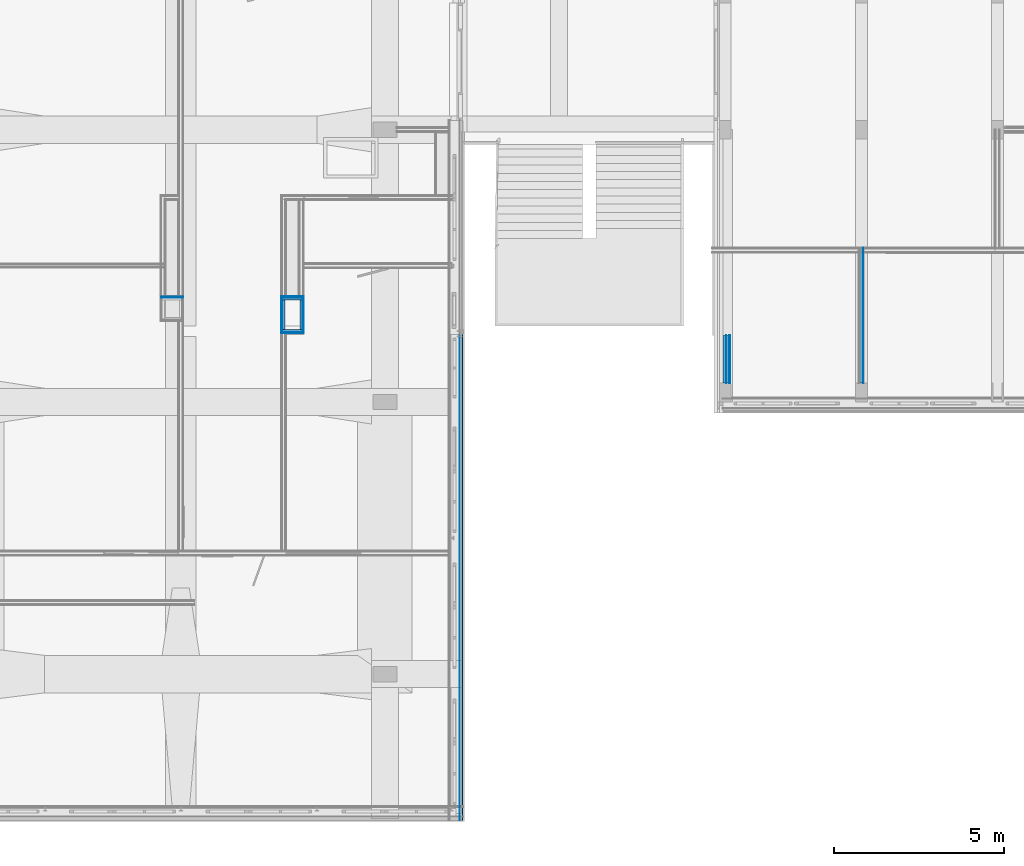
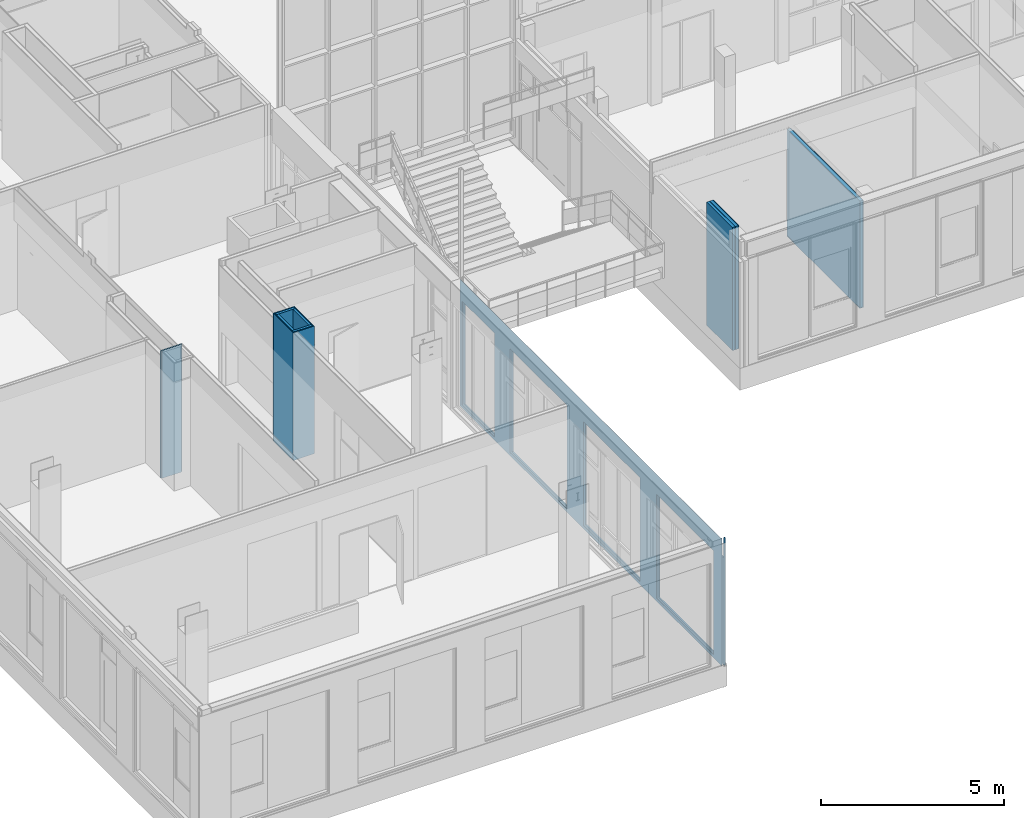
# One storey, part 43 of 94: 28 building element parts, 7 openings, 8 elements without a shape of their own.
"""IFC2X3 building model written with IfcOpenShell, lengths in millimetres."""

from ifc_helpers import new_model, entity, si_unit, converted_unit, derived_unit, money_unit, direction, frame, origin_with_axes, place, context, subcontext, project, spatial, faceted_brep, material, type_object, element, aggregate, save


model = new_model("IFC2X3")

# Units and contexts
model_context = context("Model", 3, precision=0.01, world=origin_with_axes(), true_north=direction((0.0, 1.0)))
body_context = subcontext(model_context, "Body", "Model", "MODEL_VIEW")
ifc_project = project(units=[si_unit("LENGTHUNIT", "METRE", prefix="MILLI"), si_unit("AREAUNIT", "SQUARE_METRE"), si_unit("VOLUMEUNIT", "CUBIC_METRE"), converted_unit("PLANEANGLEUNIT", "DEGREE", entity("IfcPlaneAngleMeasure", 0.0174532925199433), si_unit("PLANEANGLEUNIT", "RADIAN"), dimensions=[0, 0, 0, 0, 0, 0, 0]), money_unit("EUR"), converted_unit("TIMEUNIT", "Year", entity("IfcTimeMeasure", 31557600.0), si_unit("TIMEUNIT", "SECOND"), dimensions=[0, 0, 1, 0, 0, 0, 0]), si_unit("MASSUNIT", "GRAM", prefix="KILO"), si_unit("THERMODYNAMICTEMPERATUREUNIT", "DEGREE_CELSIUS"), si_unit("LUMINOUSINTENSITYUNIT", "LUMEN"), si_unit("ENERGYUNIT", "JOULE", prefix="MEGA"), derived_unit("THERMALCONDUCTANCEUNIT", [(si_unit("POWERUNIT", "WATT"), 1), (si_unit("LENGTHUNIT", "METRE"), -1), (si_unit("THERMODYNAMICTEMPERATUREUNIT", "KELVIN"), -1)]), derived_unit("SPECIFICHEATCAPACITYUNIT", [(si_unit("ENERGYUNIT", "JOULE"), 1), (si_unit("MASSUNIT", "GRAM", prefix="KILO"), -1), (si_unit("THERMODYNAMICTEMPERATUREUNIT", "KELVIN"), -1)]), derived_unit("MASSDENSITYUNIT", [(si_unit("MASSUNIT", "GRAM", prefix="KILO"), 1), (si_unit("VOLUMEUNIT", "CUBIC_METRE"), -1)])], contexts=[model_context])

# Site, building, storey
site_placement = place(None, origin_with_axes())
site = spatial("IfcSite", under=ifc_project, at=site_placement, Name="<site naam>", CompositionType="ELEMENT")
building_placement = place(site_placement, origin_with_axes())
building = spatial("IfcBuilding", under=site, at=building_placement, Name="<Naam gebouw>", CompositionType="ELEMENT")
storey_placement = place(building_placement, frame((0.0, 0.0, 4250.0), z_axis=(0.0, 0.0, 1.0), x_axis=(1.0, 0.0, 0.0)))
storey = spatial("IfcBuildingStorey", under=building, at=storey_placement, Name="01 1e verdieping", CompositionType="ELEMENT", Elevation=4250.0)

# Wall, building element parts
wall_type_1 = type_object("IfcWallType", Name="MS-01 GF 150 ECO DGS/2.100.2.A 150", PredefinedType="NOTDEFINED")
wall_1_placement = place(storey_placement, frame((16000.00000000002, 4524.999967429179, 0.0), z_axis=(0.0, 0.0, 1.0), x_axis=(0.0, -1.0, 0.0)))
wall_1 = element("IfcWall", 1, at=wall_1_placement, inside=storey, type_object=wall_type_1, Name="22_Binnenwand_MS-01")
ifc_material_1 = material(Name="gipsplaat")
building_element_part_1_placement = place(wall_1_placement, origin_with_axes())
building_element_part_1 = element("IfcBuildingElementPart", 2, at=building_element_part_1_placement, material=ifc_material_1, Name="gipsplaat", context=body_context, shape_type="Brep", body=[
    faceted_brep([(0.0, 50.00000000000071, 3569.999999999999), (0.0, 62.5, 3569.999999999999), (0.0, 62.5, 22.99999999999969), (0.0, 50.00000000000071, 22.99999999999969), (3974.999967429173, 62.5, 3569.999999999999), (3974.999967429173, 50.00000000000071, 3569.999999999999), (3975.000013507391, 62.5, 22.99999999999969), (3975.000013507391, 50.00000000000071, 22.99999999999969)], [[[0, 1, 2, 3]], [[4, 1, 0, 5]], [[1, 4, 6, 2]], [[6, 7, 3, 2]], [[5, 0, 3, 7]], [[4, 5, 7, 6]]]),
    faceted_brep([(0.0, 50.00000000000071, 19.99999999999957), (0.0, 62.5, 19.99999999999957), (0.0, 62.5, 0.0), (0.0, 50.00000000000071, 0.0), (3975.00001350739, 62.5, 19.99999999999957), (3975.00001350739, 50.00000000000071, 19.99999999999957), (3974.999967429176, 62.5, 0.0), (3974.999967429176, 50.00000000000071, 0.0)], [[[0, 1, 2, 3]], [[4, 1, 0, 5]], [[1, 4, 6, 2]], [[2, 6, 7, 3]], [[5, 0, 3, 7]], [[4, 5, 7, 6]]]),
])
ifc_material_2 = material(Name="isolatie_steenwol LSW")
building_element_part_2_placement = place(wall_1_placement, origin_with_axes())
building_element_part_2 = element("IfcBuildingElementPart", 3, at=building_element_part_2_placement, material=ifc_material_2, Name="isolatie_steenwol LSW", context=body_context, shape_type="Brep", body=[
    faceted_brep([(0.0, -50.00000000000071, 3569.999999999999), (0.0, 50.00000000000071, 3569.999999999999), (0.0, 50.00000000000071, 22.99999999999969), (0.0, -50.00000000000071, 22.99999999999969), (3974.999967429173, 50.00000000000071, 3569.999999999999), (3974.999967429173, -50.00000000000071, 3569.999999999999), (3975.000013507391, 50.00000000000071, 22.99999999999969), (3975.000013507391, -50.00000000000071, 22.99999999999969)], [[[0, 1, 2, 3]], [[4, 1, 0, 5]], [[1, 4, 6, 2]], [[6, 7, 3, 2]], [[5, 0, 3, 7]], [[4, 5, 7, 6]]]),
    faceted_brep([(0.0, -50.00000000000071, 19.99999999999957), (0.0, 50.00000000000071, 19.99999999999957), (0.0, 50.00000000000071, 0.0), (0.0, -50.00000000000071, 0.0), (3975.00001350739, 50.00000000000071, 19.99999999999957), (3975.00001350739, -50.00000000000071, 19.99999999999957), (3974.999967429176, 50.00000000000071, 0.0), (3974.999967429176, -50.00000000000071, 0.0)], [[[0, 1, 2, 3]], [[4, 1, 0, 5]], [[1, 4, 6, 2]], [[2, 6, 7, 3]], [[5, 0, 3, 7]], [[4, 5, 7, 6]]]),
])
aggregate(wall_1, [building_element_part_1, building_element_part_2])

# Wall, openings, building element parts
wall_type_2 = type_object("IfcWallType", Name="HSB_285 gevelbeplating 420", PredefinedType="NOTDEFINED")
wall_2_placement = place(storey_placement, frame((4298.044439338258, -12297.99999999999, 0.0), z_axis=(0.0, 0.0, 1.0), x_axis=(0.0, 1.0, 0.0)))
wall_2 = element("IfcWall", 4, at=wall_2_placement, inside=storey, type_object=wall_type_2, Name="21_Binnenwand_HSB_285")
opening_1_placement = place(wall_2_placement, frame((1379.500065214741, 0.0, 102.9999634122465), z_axis=(0.0, 0.0, 1.0), x_axis=(1.0, 0.0, 0.0)))
element("IfcOpeningElement", 5, at=opening_1_placement, cuts=wall_2, Name="21_BU-A-12a_305", context=body_context, shape_type="Brep", body=[
    faceted_brep([(918.5000652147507, 213.0000000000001, 0.0), (918.5000652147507, 213.0000000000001, 3454.0), (918.5000652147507, -1.000000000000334, 3454.0), (918.5000652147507, -1.000000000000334, 0.0), (918.5000652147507, 420.9999999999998, 0.0), (918.5000652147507, 420.9999999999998, 3454.0), (-918.5000652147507, 213.0000000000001, 3454.0), (-918.5000652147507, -1.000000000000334, 3454.0), (-918.5000652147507, -1.000000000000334, 0.0), (-918.5000652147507, 213.0000000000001, 0.0), (-918.5000652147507, 420.9999999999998, 0.0), (-918.5000652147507, 420.9999999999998, 3454.0)], [[[0, 1, 2, 3]], [[1, 0, 4, 5]], [[1, 6, 7, 2]], [[7, 8, 3, 2]], [[9, 0, 3, 8]], [[0, 9, 10, 4]], [[5, 4, 10, 11]], [[6, 1, 5, 11]], [[6, 9, 8, 7]], [[9, 6, 11, 10]]]),
])
opening_2_placement = place(wall_2_placement, frame((2931.50007085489, 0.0, 102.9999634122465), z_axis=(0.0, 0.0, 1.0), x_axis=(1.0, 0.0, 0.0)))
element("IfcOpeningElement", 6, at=opening_2_placement, cuts=wall_2, Name="21_BU-A-12b_305", context=body_context, shape_type="Brep", body=[
    faceted_brep([(633.4999291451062, 213.0000000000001, 0.0), (633.4999291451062, 213.0000000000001, 3454.0), (633.4999291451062, -1.000000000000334, 3454.0), (633.4999291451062, -1.000000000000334, 0.0), (633.4999291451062, 420.9999999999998, 0.0), (633.4999291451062, 420.9999999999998, 3454.0), (-633.4999291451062, 213.0000000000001, 3454.0), (-633.4999291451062, -1.000000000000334, 3454.0), (-633.4999291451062, -1.000000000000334, 0.0), (-633.4999291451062, 213.0000000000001, 0.0), (-633.4999291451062, 420.9999999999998, 0.0), (-633.4999291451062, 420.9999999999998, 3454.0)], [[[0, 1, 2, 3]], [[1, 0, 4, 5]], [[1, 6, 7, 2]], [[7, 8, 3, 2]], [[9, 0, 3, 8]], [[0, 9, 10, 4]], [[5, 4, 10, 11]], [[6, 1, 5, 11]], [[6, 9, 8, 7]], [[9, 6, 11, 10]]]),
])
opening_3_placement = place(wall_2_placement, frame((5379.47903416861, 0.0, 102.9999634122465), z_axis=(0.0, 0.0, 1.0), x_axis=(1.0, 0.0, 0.0)))
element("IfcOpeningElement", 7, at=opening_3_placement, cuts=wall_2, Name="21_BU-A-12a_305", context=body_context, shape_type="Brep", body=[
    faceted_brep([(918.5000652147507, 213.0000000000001, 0.0), (918.5000652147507, 213.0000000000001, 3454.0), (918.5000652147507, -1.000000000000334, 3454.0), (918.5000652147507, -1.000000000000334, 0.0), (918.5000652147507, 420.9999999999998, 0.0), (918.5000652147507, 420.9999999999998, 3454.0), (-918.5000652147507, 213.0000000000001, 3454.0), (-918.5000652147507, -1.000000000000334, 3454.0), (-918.5000652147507, -1.000000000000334, 0.0), (-918.5000652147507, 213.0000000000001, 0.0), (-918.5000652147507, 420.9999999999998, 0.0), (-918.5000652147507, 420.9999999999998, 3454.0)], [[[0, 1, 2, 3]], [[1, 0, 4, 5]], [[1, 6, 7, 2]], [[7, 8, 3, 2]], [[9, 0, 3, 8]], [[0, 9, 10, 4]], [[5, 4, 10, 11]], [[6, 1, 5, 11]], [[6, 9, 8, 7]], [[9, 6, 11, 10]]]),
])
opening_4_placement = place(wall_2_placement, frame((6931.500070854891, 0.0, 102.9999634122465), z_axis=(0.0, 0.0, 1.0), x_axis=(1.0, 0.0, 0.0)))
element("IfcOpeningElement", 8, at=opening_4_placement, cuts=wall_2, Name="21_BU-A-12b_305", context=body_context, shape_type="Brep", body=[
    faceted_brep([(633.4999291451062, 213.0000000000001, 0.0), (633.4999291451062, 213.0000000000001, 3454.0), (633.4999291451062, -1.000000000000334, 3454.0), (633.4999291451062, -1.000000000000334, 0.0), (633.4999291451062, 420.9999999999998, 0.0), (633.4999291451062, 420.9999999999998, 3454.0), (-633.4999291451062, 213.0000000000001, 3454.0), (-633.4999291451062, -1.000000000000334, 3454.0), (-633.4999291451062, -1.000000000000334, 0.0), (-633.4999291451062, 213.0000000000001, 0.0), (-633.4999291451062, 420.9999999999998, 0.0), (-633.4999291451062, 420.9999999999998, 3454.0)], [[[0, 1, 2, 3]], [[1, 0, 4, 5]], [[1, 6, 7, 2]], [[7, 8, 3, 2]], [[9, 0, 3, 8]], [[0, 9, 10, 4]], [[5, 4, 10, 11]], [[6, 1, 5, 11]], [[6, 9, 8, 7]], [[9, 6, 11, 10]]]),
])
opening_5_placement = place(wall_2_placement, frame((10931.50007085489, 0.0, 102.9999634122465), z_axis=(0.0, 0.0, 1.0), x_axis=(1.0, 0.0, 0.0)))
element("IfcOpeningElement", 9, at=opening_5_placement, cuts=wall_2, Name="21_BU-A-12b_305", context=body_context, shape_type="Brep", body=[
    faceted_brep([(633.4999291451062, 212.9999999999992, 0.0), (633.4999291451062, 212.9999999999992, 3454.0), (633.4999291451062, -1.000000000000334, 3454.0), (633.4999291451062, -1.000000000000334, 0.0), (633.4999291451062, 420.9999999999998, 0.0), (633.4999291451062, 420.9999999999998, 3454.0), (-633.4999291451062, 212.9999999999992, 3454.0), (-633.4999291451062, -1.000000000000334, 3454.0), (-633.4999291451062, -1.000000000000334, 0.0), (-633.4999291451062, 212.9999999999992, 0.0), (-633.4999291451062, 420.9999999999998, 0.0), (-633.4999291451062, 420.9999999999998, 3454.0)], [[[0, 1, 2, 3]], [[1, 0, 4, 5]], [[1, 6, 7, 2]], [[7, 8, 3, 2]], [[9, 0, 3, 8]], [[0, 9, 10, 4]], [[5, 4, 10, 11]], [[6, 1, 5, 11]], [[6, 9, 8, 7]], [[9, 6, 11, 10]]]),
])
opening_6_placement = place(wall_2_placement, frame((13295.52252618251, 0.0, 102.9999634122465), z_axis=(0.0, 0.0, 1.0), x_axis=(1.0, 0.0, 0.0)))
element("IfcOpeningElement", 10, at=opening_6_placement, cuts=wall_2, Name="21_BU-A-14a_305", context=body_context, shape_type="Brep", body=[
    faceted_brep([(879.4969387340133, 212.9999999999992, 0.0), (879.4969387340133, 212.9999999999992, 3454.0), (879.4969387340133, -1.000000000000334, 3454.0), (879.4969387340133, -1.000000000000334, 0.0), (879.4969387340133, 420.9999999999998, 0.0), (879.4969387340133, 420.9999999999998, 3454.0), (-879.4969387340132, 212.9999999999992, 3454.0), (-879.4969387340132, -1.000000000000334, 3454.0), (-879.4969387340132, -1.000000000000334, 0.0), (-879.4969387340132, 212.9999999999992, 0.0), (-879.4969387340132, 420.9999999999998, 0.0), (-879.4969387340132, 420.9999999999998, 3454.0)], [[[0, 1, 2, 3]], [[1, 0, 4, 5]], [[1, 6, 7, 2]], [[7, 8, 3, 2]], [[9, 0, 3, 8]], [[0, 9, 10, 4]], [[5, 4, 10, 11]], [[6, 1, 5, 11]], [[6, 9, 8, 7]], [[9, 6, 11, 10]]]),
])
opening_7_placement = place(wall_2_placement, frame((9379.500065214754, 0.0, 102.9999634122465), z_axis=(0.0, 0.0, 1.0), x_axis=(1.0, 0.0, 0.0)))
element("IfcOpeningElement", 11, at=opening_7_placement, cuts=wall_2, Name="21_BU-A-12a_305", context=body_context, shape_type="Brep", body=[
    faceted_brep([(918.5000652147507, 212.9999999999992, 0.0), (918.5000652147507, 212.9999999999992, 3454.0), (918.5000652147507, -1.000000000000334, 3454.0), (918.5000652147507, -1.000000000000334, 0.0), (918.5000652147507, 420.9999999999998, 0.0), (918.5000652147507, 420.9999999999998, 3454.0), (-918.5000652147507, 212.9999999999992, 3454.0), (-918.5000652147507, -1.000000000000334, 3454.0), (-918.5000652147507, -1.000000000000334, 0.0), (-918.5000652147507, 212.9999999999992, 0.0), (-918.5000652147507, 420.9999999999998, 0.0), (-918.5000652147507, 420.9999999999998, 3454.0)], [[[0, 1, 2, 3]], [[1, 0, 4, 5]], [[1, 6, 7, 2]], [[7, 8, 3, 2]], [[9, 0, 3, 8]], [[0, 9, 10, 4]], [[5, 4, 10, 11]], [[6, 1, 5, 11]], [[6, 9, 8, 7]], [[9, 6, 11, 10]]]),
])
ifc_material_3 = material(Name="brandwerende_bekleding")
building_element_part_3_placement = place(wall_2_placement, origin_with_axes())
building_element_part_3 = element("IfcBuildingElementPart", 12, at=building_element_part_3_placement, material=ifc_material_3, Name="brandwerende_bekleding", context=body_context, shape_type="Brep", body=[
    faceted_brep([(14276.35758320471, 107.0000000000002, 4220.000027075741), (14276.35758320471, 102.5, 4220.000027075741), (14276.35758320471, 102.5, 0.0), (14276.35758320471, 107.0000000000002, 0.0), (23.00991190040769, 102.5, 4220.000027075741), (23.00991190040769, 107.0000000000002, 4220.000027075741), (23.00991190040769, 102.5, 4250.0), (0.0, 102.5, 4250.0), (0.0, 102.5, 0.0), (0.0, 107.0000000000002, 0.0), (0.0, 107.0000000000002, 4250.0), (23.00991190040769, 107.0000000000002, 4250.0)], [[[0, 1, 2, 3]], [[4, 1, 0, 5]], [[4, 6, 7, 8, 2, 1]], [[9, 3, 2, 8]], [[5, 0, 3, 9, 10, 11]], [[11, 6, 4, 5]], [[6, 11, 10, 7]], [[10, 9, 8, 7]]]),
])
ifc_material_4 = material(Name="folie_dampopen")
building_element_part_4_placement = place(wall_2_placement, origin_with_axes())
building_element_part_4 = element("IfcBuildingElementPart", 13, at=building_element_part_4_placement, material=ifc_material_4, Name="folie_dampopen", context=body_context, shape_type="Brep", body=[
    faceted_brep([(14276.35758320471, 102.5, 4220.000027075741), (14276.35758320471, 102.0000000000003, 4220.000027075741), (14276.35758320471, 102.0000000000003, 0.0), (14276.35758320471, 102.5, 0.0), (23.00991190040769, 102.0000000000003, 4220.000027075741), (23.00991190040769, 102.5, 4220.000027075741), (23.00991190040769, 102.0000000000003, 4250.0), (0.0, 102.0000000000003, 4250.0), (0.0, 102.0000000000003, 0.0), (0.0, 102.5, 0.0), (0.0, 102.5, 4250.0), (23.00991190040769, 102.5, 4250.0)], [[[0, 1, 2, 3]], [[4, 1, 0, 5]], [[4, 6, 7, 8, 2, 1]], [[9, 3, 2, 8]], [[5, 0, 3, 9, 10, 11]], [[11, 6, 4, 5]], [[6, 11, 10, 7]], [[10, 9, 8, 7]]]),
])
ifc_material_5 = material(Name="metaal - Aluminium gevelplaat")
building_element_part_5_placement = place(wall_2_placement, origin_with_axes())
building_element_part_5 = element("IfcBuildingElementPart", 14, at=building_element_part_5_placement, material=ifc_material_5, Name="metaal - Aluminium gevelplaat", context=body_context, shape_type="Brep", body=[
    faceted_brep([(14276.35758320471, 40.00000000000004, 3560.000103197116), (14276.35758320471, 0.0, 3560.000103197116), (14276.35758320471, 0.0, 0.0), (14276.35758320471, 40.00000000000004, 0.0), (23.00991190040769, 40.00000000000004, 3560.000103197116), (23.00991190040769, 0.0, 3560.000103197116), (23.00991190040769, 0.0, 4250.0), (0.0, 0.0, 4250.0), (0.0, 0.0, 0.0), (0.0, 40.00000000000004, 0.0), (0.0, 40.00000000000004, 4250.0), (23.00991190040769, 40.00000000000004, 4250.0)], [[[0, 1, 2, 3]], [[1, 0, 4, 5]], [[5, 6, 7, 8, 2, 1]], [[9, 3, 2, 8]], [[4, 0, 3, 9, 10, 11]], [[6, 5, 4, 11]], [[6, 11, 10, 7]], [[10, 9, 8, 7]]]),
])
aggregate(wall_2, [building_element_part_3, building_element_part_4, building_element_part_5])

# Wall, building element parts
wall_type_3 = type_object("IfcWallType", Name="therm. voorzetwand 215mm 215", PredefinedType="NOTDEFINED")
wall_3_placement = place(storey_placement, frame((11935.00003775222, 550.0000663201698, 0.0), z_axis=(0.0, 0.0, 1.0), x_axis=(0.0, 1.0, 0.0)))
wall_3 = element("IfcWall", 15, at=wall_3_placement, inside=storey, type_object=wall_type_3, Name="22_Binnenwand_therm.")
ifc_material_6 = material(Name="isolatie_steenwol")
building_element_part_6_placement = place(wall_3_placement, origin_with_axes())
building_element_part_6 = element("IfcBuildingElementPart", 16, at=building_element_part_6_placement, material=ifc_material_6, Name="isolatie_steenwol", context=body_context, shape_type="Brep", body=[
    faceted_brep([(1404.999911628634, 0.0, 4100.0), (1404.999911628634, -90.00000000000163, 4100.0), (1404.999911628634, -90.00000000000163, 0.0), (1404.999911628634, 0.0, 0.0), (0.0, -90.00000000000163, 4100.0), (0.0, 0.0, 4100.0), (0.0, -90.00000000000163, 0.0), (0.0, 0.0, 0.0)], [[[0, 1, 2, 3]], [[4, 1, 0, 5]], [[1, 4, 6, 2]], [[7, 3, 2, 6]], [[5, 0, 3, 7]], [[4, 5, 7, 6]]]),
])
ifc_material_7 = material(Name="metal_stud")
building_element_part_7_placement = place(wall_3_placement, origin_with_axes())
building_element_part_7 = element("IfcBuildingElementPart", 17, at=building_element_part_7_placement, material=ifc_material_7, Name="metal_stud", context=body_context, shape_type="Brep", body=[
    faceted_brep([(1404.999911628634, -90.00000000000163, 4100.0), (1404.999911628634, -99.99999999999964, 4100.0), (1404.999911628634, -99.99999999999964, 0.0), (1404.999911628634, -90.00000000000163, 0.0), (0.0, -99.99999999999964, 4100.0), (0.0, -90.00000000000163, 4100.0), (0.0, -99.99999999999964, 0.0), (0.0, -90.00000000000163, 0.0)], [[[0, 1, 2, 3]], [[4, 1, 0, 5]], [[1, 4, 6, 2]], [[7, 3, 2, 6]], [[5, 0, 3, 7]], [[4, 5, 7, 6]]]),
])
building_element_part_8_placement = place(wall_3_placement, origin_with_axes())
building_element_part_8 = element("IfcBuildingElementPart", 18, at=building_element_part_8_placement, material=ifc_material_6, Name="isolatie_steenwol", context=body_context, shape_type="Brep", body=[
    faceted_brep([(1404.999911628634, -99.99999999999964, 4100.0), (1404.999911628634, -189.9999999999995, 4100.0), (1404.999911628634, -189.9999999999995, 0.0), (1404.999911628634, -99.99999999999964, 0.0), (0.0, -189.9999999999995, 4100.0), (0.0, -99.99999999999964, 4100.0), (0.0, -189.9999999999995, 0.0), (0.0, -99.99999999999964, 0.0)], [[[0, 1, 2, 3]], [[4, 1, 0, 5]], [[1, 4, 6, 2]], [[7, 3, 2, 6]], [[5, 0, 3, 7]], [[4, 5, 7, 6]]]),
])
building_element_part_9_placement = place(wall_3_placement, origin_with_axes())
building_element_part_9 = element("IfcBuildingElementPart", 19, at=building_element_part_9_placement, material=ifc_material_1, Name="gipsplaat", context=body_context, shape_type="Brep", body=[
    faceted_brep([(1404.999911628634, -189.9999999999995, 4100.0), (1404.999911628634, -202.4999999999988, 4100.0), (1404.999911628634, -202.4999999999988, 0.0), (1404.999911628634, -189.9999999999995, 0.0), (0.0, -202.4999999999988, 4100.0), (0.0, -189.9999999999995, 4100.0), (0.0, -202.4999999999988, 0.0), (0.0, -189.9999999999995, 0.0)], [[[0, 1, 2, 3]], [[4, 1, 0, 5]], [[1, 4, 6, 2]], [[7, 3, 2, 6]], [[5, 0, 3, 7]], [[4, 5, 7, 6]]]),
])
building_element_part_10_placement = place(wall_3_placement, origin_with_axes())
building_element_part_10 = element("IfcBuildingElementPart", 20, at=building_element_part_10_placement, material=ifc_material_1, Name="gipsplaat", context=body_context, shape_type="Brep", body=[
    faceted_brep([(1404.999911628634, -202.4999999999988, 4100.0), (1404.999911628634, -215.0000000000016, 4100.0), (1404.999911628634, -215.0000000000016, 3740.0), (1404.999911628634, -202.4999999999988, 3740.0), (0.0, -215.0000000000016, 4100.0), (0.0, -202.4999999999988, 4100.0), (0.0, -215.0000000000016, 3740.0), (0.0, -202.4999999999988, 3740.0)], [[[0, 1, 2, 3]], [[4, 1, 0, 5]], [[1, 4, 6, 2]], [[7, 3, 2, 6]], [[5, 0, 3, 7]], [[4, 5, 7, 6]]]),
    faceted_brep([(1404.999911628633, -202.5000000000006, 3700.0), (1404.999911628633, -214.9999999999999, 3700.0), (1404.999911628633, -214.9999999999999, 0.0), (1404.999911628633, -202.5000000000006, 0.0), (0.0, -214.9999999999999, 3700.0), (0.0, -202.5000000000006, 3700.0), (0.0, -214.9999999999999, 0.0), (0.0, -202.5000000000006, 0.0)], [[[0, 1, 2, 3]], [[4, 1, 0, 5]], [[1, 4, 6, 2]], [[7, 3, 2, 6]], [[5, 0, 3, 7]], [[4, 5, 7, 6]]]),
])
aggregate(wall_3, [building_element_part_6, building_element_part_7, building_element_part_8, building_element_part_9, building_element_part_10])

wall_type_4 = type_object("IfcWallType", Name="MS-04 GF 138 V/100.3.A 113", PredefinedType="NOTDEFINED")
wall_4_placement = place(storey_placement, frame((-379.999999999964, 3105.00000000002, 0.0), z_axis=(0.0, 0.0, 1.0), x_axis=(-1.0, 0.0, 0.0)))
wall_4 = element("IfcWall", 21, at=wall_4_placement, inside=storey, type_object=wall_type_4, Name="22_Binnenwand_MS-04")
building_element_part_11_placement = place(wall_4_placement, origin_with_axes())
building_element_part_11 = element("IfcBuildingElementPart", 22, at=building_element_part_11_placement, material=ifc_material_2, Name="isolatie_steenwol LSW", context=body_context, shape_type="Brep", body=[
    faceted_brep([(632.4999999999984, 37.50000000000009, 0.0), (632.4999999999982, 37.50000000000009, 4250.0), (37.50000000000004, 37.50000000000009, 4250.0), (37.50000000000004, 37.50000000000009, 0.0), (632.4999999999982, 112.5000000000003, 4250.0), (632.4999999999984, 112.4999999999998, 0.0), (37.50000000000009, 112.5000000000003, 4250.0), (37.50000000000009, 112.4999999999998, 0.0)], [[[0, 1, 2, 3]], [[4, 1, 0, 5]], [[1, 4, 6, 2]], [[3, 2, 6, 7]], [[5, 0, 3, 7]], [[4, 5, 7, 6]]]),
])
building_element_part_12_placement = place(wall_4_placement, origin_with_axes())
building_element_part_12 = element("IfcBuildingElementPart", 23, at=building_element_part_12_placement, material=ifc_material_1, Name="gipsplaat", context=body_context, shape_type="Brep", body=[
    faceted_brep([(644.9999999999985, 24.99999999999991, 0.0), (644.9999999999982, 25.00000000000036, 4250.0), (25.00000000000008, 25.00000000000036, 4250.0), (25.00000000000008, 24.99999999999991, 0.0), (644.9999999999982, 37.50000000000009, 4250.0), (644.9999999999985, 37.50000000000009, 0.0), (25.00000000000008, 37.50000000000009, 4250.0), (25.00000000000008, 37.50000000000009, 0.0)], [[[0, 1, 2, 3]], [[4, 1, 0, 5]], [[1, 4, 6, 2]], [[3, 2, 6, 7]], [[5, 0, 3, 7]], [[4, 5, 7, 6]]]),
])
building_element_part_13_placement = place(wall_4_placement, origin_with_axes())
building_element_part_13 = element("IfcBuildingElementPart", 24, at=building_element_part_13_placement, material=ifc_material_1, Name="gipsplaat", context=body_context, shape_type="Brep", body=[
    faceted_brep([(657.4999999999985, 12.49999999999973, 0.0), (657.4999999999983, 12.50000000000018, 4250.0), (12.50000000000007, 12.50000000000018, 4250.0), (12.50000000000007, 12.50000000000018, 0.0), (657.4999999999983, 25.00000000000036, 4250.0), (657.4999999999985, 24.99999999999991, 0.0), (12.50000000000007, 25.00000000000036, 4250.0), (12.50000000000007, 24.99999999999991, 0.0)], [[[0, 1, 2, 3]], [[4, 1, 0, 5]], [[1, 4, 6, 2]], [[3, 2, 6, 7]], [[5, 0, 3, 7]], [[4, 5, 7, 6]]]),
])
building_element_part_14_placement = place(wall_4_placement, origin_with_axes())
building_element_part_14 = element("IfcBuildingElementPart", 25, at=building_element_part_14_placement, material=ifc_material_1, Name="gipsplaat", context=body_context, shape_type="Brep", body=[
    faceted_brep([(669.9999999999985, 0.0, 0.0), (669.9999999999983, 0.0, 4250.0), (0.0, 0.0, 4250.0), (0.0, 0.0, 0.0), (669.9999999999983, 12.50000000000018, 4250.0), (669.9999999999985, 12.49999999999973, 0.0), (0.0, 12.50000000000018, 4250.0), (0.0, 12.50000000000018, 0.0)], [[[0, 1, 2, 3]], [[4, 1, 0, 5]], [[1, 4, 6, 2]], [[2, 6, 7, 3]], [[5, 0, 3, 7]], [[4, 5, 7, 6]]]),
])
aggregate(wall_4, [building_element_part_11, building_element_part_12, building_element_part_13, building_element_part_14])

wall_5_placement = place(storey_placement, frame((-3924.99979006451, 3104.999976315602, 0.0), z_axis=(0.0, 0.0, 1.0), x_axis=(-0.9999999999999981, -6.217457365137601e-08, 0.0)))
wall_5 = element("IfcWall", 26, at=wall_5_placement, inside=storey, type_object=wall_type_4, Name="22_Binnenwand_MS-04")
building_element_part_15_placement = place(wall_5_placement, origin_with_axes())
building_element_part_15 = element("IfcBuildingElementPart", 27, at=building_element_part_15_placement, material=ifc_material_1, Name="gipsplaat", context=body_context, shape_type="Brep", body=[
    faceted_brep([(25.00000233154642, 37.4999984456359, 4250.0), (25.00000155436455, 24.99999844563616, 4250.0), (644.9996333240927, 24.9999598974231, 4250.0), (644.9996341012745, 37.49995989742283, 4250.0), (25.00000155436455, 24.99999844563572, 0.0), (25.00000233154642, 37.4999984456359, 0.0), (644.9996333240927, 24.99995989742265, 0.0), (644.9996341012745, 37.49995989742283, 0.0)], [[[0, 1, 2, 3]], [[4, 1, 0, 5]], [[1, 4, 6, 2]], [[3, 2, 6, 7]], [[5, 0, 3, 7]], [[4, 5, 7, 6]]]),
])
building_element_part_16_placement = place(wall_5_placement, origin_with_axes())
building_element_part_16 = element("IfcBuildingElementPart", 28, at=building_element_part_16_placement, material=ifc_material_1, Name="gipsplaat", context=body_context, shape_type="Brep", body=[
    faceted_brep([(2.685423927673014e-05, 12.4999999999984, 4250.0), (2.607705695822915e-05, 0.0, 4250.0), (669.9996317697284, -4.165694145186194e-05, 4250.0), (669.9996325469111, 12.49995834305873, 4250.0), (2.607705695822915e-05, 0.0, 0.0), (2.685423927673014e-05, 12.4999999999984, 0.0), (669.9996317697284, -4.165694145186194e-05, 0.0), (669.9996325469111, 12.49995834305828, 0.0)], [[[0, 1, 2, 3]], [[4, 1, 0, 5]], [[1, 4, 6, 2]], [[2, 6, 7, 3]], [[5, 0, 3, 7]], [[4, 5, 7, 6]]]),
])
aggregate(wall_5, [building_element_part_15, building_element_part_16])

wall_6_placement = place(storey_placement, frame((-379.9999999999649, 2125.000000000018, 0.0), z_axis=(0.0, 0.0, 1.0), x_axis=(-1.0, 0.0, 0.0)))
wall_6 = element("IfcWall", 29, at=wall_6_placement, inside=storey, type_object=wall_type_4, Name="22_Binnenwand_MS-04")
building_element_part_17_placement = place(wall_6_placement, origin_with_axes())
building_element_part_17 = element("IfcBuildingElementPart", 30, at=building_element_part_17_placement, material=ifc_material_1, Name="gipsplaat", context=body_context, shape_type="Brep", body=[
    faceted_brep([(669.9999999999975, 100.0000000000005, 0.0), (669.9999999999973, 100.0000000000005, 4250.0), (0.0, 100.0000000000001, 4250.0), (0.0, 100.0000000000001, 0.0), (669.9999999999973, 112.5000000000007, 4250.0), (669.9999999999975, 112.5000000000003, 0.0), (0.0, 112.5000000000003, 4250.0), (0.0, 112.4999999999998, 0.0)], [[[0, 1, 2, 3]], [[4, 1, 0, 5]], [[1, 4, 6, 2]], [[2, 6, 7, 3]], [[5, 0, 3, 7]], [[4, 5, 7, 6]]]),
])
building_element_part_18_placement = place(wall_6_placement, origin_with_axes())
building_element_part_18 = element("IfcBuildingElementPart", 31, at=building_element_part_18_placement, material=ifc_material_1, Name="gipsplaat", context=body_context, shape_type="Brep", body=[
    faceted_brep([(644.9999999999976, 75.00000000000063, 0.0), (644.9999999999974, 75.00000000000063, 4250.0), (25.00000000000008, 75.00000000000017, 4250.0), (25.00000000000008, 75.00000000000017, 0.0), (644.9999999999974, 87.5000000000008, 4250.0), (644.9999999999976, 87.50000000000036, 0.0), (25.00000000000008, 87.50000000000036, 4250.0), (25.00000000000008, 87.49999999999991, 0.0)], [[[0, 1, 2, 3]], [[4, 1, 0, 5]], [[1, 4, 6, 2]], [[3, 2, 6, 7]], [[5, 0, 3, 7]], [[4, 5, 7, 6]]]),
])
building_element_part_19_placement = place(wall_6_placement, origin_with_axes())
building_element_part_19 = element("IfcBuildingElementPart", 32, at=building_element_part_19_placement, material=ifc_material_2, Name="isolatie_steenwol LSW", context=body_context, shape_type="Brep", body=[
    faceted_brep([(632.4999999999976, 0.0, 0.0), (632.4999999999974, 0.0, 4250.0), (37.49999999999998, 0.0, 4250.0), (37.49999999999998, 0.0, 0.0), (632.4999999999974, 74.99999999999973, 4250.0), (632.4999999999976, 75.00000000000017, 0.0), (37.50000000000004, 75.00000000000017, 4250.0), (37.50000000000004, 75.00000000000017, 0.0)], [[[0, 1, 2, 3]], [[4, 1, 0, 5]], [[1, 4, 6, 2]], [[3, 2, 6, 7]], [[5, 0, 3, 7]], [[4, 5, 7, 6]]]),
])
building_element_part_20_placement = place(wall_6_placement, origin_with_axes())
building_element_part_20 = element("IfcBuildingElementPart", 33, at=building_element_part_20_placement, material=ifc_material_1, Name="gipsplaat", context=body_context, shape_type="Brep", body=[
    faceted_brep([(657.4999999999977, 87.50000000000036, 0.0), (657.4999999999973, 87.5000000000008, 4250.0), (12.50000000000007, 87.50000000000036, 4250.0), (12.50000000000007, 87.49999999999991, 0.0), (657.4999999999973, 100.0000000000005, 4250.0), (657.4999999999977, 100.0000000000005, 0.0), (12.50000000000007, 100.0000000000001, 4250.0), (12.50000000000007, 100.0000000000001, 0.0)], [[[0, 1, 2, 3]], [[4, 1, 0, 5]], [[1, 4, 6, 2]], [[3, 2, 6, 7]], [[5, 0, 3, 7]], [[4, 5, 7, 6]]]),
])
aggregate(wall_6, [building_element_part_17, building_element_part_18, building_element_part_19, building_element_part_20])

wall_7_placement = place(storey_placement, frame((-379.999999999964, 3105.00000000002, 0.0), z_axis=(0.0, 0.0, 1.0), x_axis=(0.0, -1.0, 0.0)))
wall_7 = element("IfcWall", 34, at=wall_7_placement, inside=storey, type_object=wall_type_4, Name="22_Binnenwand_MS-04")
building_element_part_21_placement = place(wall_7_placement, origin_with_axes())
building_element_part_21 = element("IfcBuildingElementPart", 35, at=building_element_part_21_placement, material=ifc_material_1, Name="gipsplaat", context=body_context, shape_type="Brep", body=[
    faceted_brep([(1080.000000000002, 0.0, 4250.0), (12.50000000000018, 0.0, 4250.0), (12.50000000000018, -12.49999999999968, 4250.0), (1080.000000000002, -12.4999999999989, 4250.0), (1080.000000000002, 0.0, 0.0), (12.50000000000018, 0.0, 0.0), (12.50000000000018, -12.49999999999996, 0.0), (1080.000000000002, -12.49999999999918, 0.0)], [[[0, 1, 2, 3]], [[4, 5, 1, 0]], [[2, 1, 5, 6]], [[3, 2, 6, 7]], [[3, 7, 4, 0]], [[7, 6, 5, 4]]]),
])
building_element_part_22_placement = place(wall_7_placement, origin_with_axes())
building_element_part_22 = element("IfcBuildingElementPart", 36, at=building_element_part_22_placement, material=ifc_material_1, Name="gipsplaat", context=body_context, shape_type="Brep", body=[
    faceted_brep([(1067.500000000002, -12.4999999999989, 4250.0), (24.99999999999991, -12.49999999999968, 4250.0), (24.99999999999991, -24.99999999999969, 4250.0), (1067.500000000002, -24.99999999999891, 4250.0), (1067.500000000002, -12.49999999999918, 0.0), (24.99999999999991, -12.49999999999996, 0.0), (24.99999999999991, -24.99999999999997, 0.0), (1067.500000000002, -24.99999999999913, 0.0)], [[[0, 1, 2, 3]], [[4, 5, 1, 0]], [[2, 1, 5, 6]], [[3, 2, 6, 7]], [[3, 7, 4, 0]], [[7, 6, 5, 4]]]),
])
building_element_part_23_placement = place(wall_7_placement, origin_with_axes())
building_element_part_23 = element("IfcBuildingElementPart", 37, at=building_element_part_23_placement, material=ifc_material_1, Name="gipsplaat", context=body_context, shape_type="Brep", body=[
    faceted_brep([(1055.000000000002, -24.99999999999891, 4250.0), (37.50000000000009, -24.99999999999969, 4250.0), (37.50000000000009, -37.4999999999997, 4250.0), (1055.000000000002, -37.49999999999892, 4250.0), (1055.000000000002, -24.99999999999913, 0.0), (37.50000000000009, -24.99999999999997, 0.0), (37.50000000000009, -37.49999999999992, 0.0), (1055.000000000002, -37.49999999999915, 0.0)], [[[0, 1, 2, 3]], [[4, 5, 1, 0]], [[2, 1, 5, 6]], [[3, 2, 6, 7]], [[3, 7, 4, 0]], [[7, 6, 5, 4]]]),
])
building_element_part_24_placement = place(wall_7_placement, origin_with_axes())
building_element_part_24 = element("IfcBuildingElementPart", 38, at=building_element_part_24_placement, material=ifc_material_2, Name="isolatie_steenwol LSW", context=body_context, shape_type="Brep", body=[
    faceted_brep([(980.0000000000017, -37.49999999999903, 4250.0), (112.4999999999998, -37.49999999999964, 4250.0), (112.4999999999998, -112.4999999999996, 4250.0), (980.0000000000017, -112.499999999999, 4250.0), (980.0000000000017, -37.49999999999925, 0.0), (112.4999999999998, -37.49999999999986, 0.0), (112.4999999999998, -112.4999999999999, 0.0), (980.0000000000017, -112.4999999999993, 0.0)], [[[0, 1, 2, 3]], [[4, 5, 1, 0]], [[2, 1, 5, 6]], [[3, 2, 6, 7]], [[3, 7, 4, 0]], [[7, 6, 5, 4]]]),
])
aggregate(wall_7, [building_element_part_21, building_element_part_22, building_element_part_23, building_element_part_24])

wall_8_placement = place(storey_placement, frame((-1049.999999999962, 3104.999962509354, 0.0), z_axis=(0.0, 0.0, 1.0), x_axis=(0.0, -1.0, 0.0)))
wall_8 = element("IfcWall", 39, at=wall_8_placement, inside=storey, type_object=wall_type_4, Name="22_Binnenwand_MS-04")
building_element_part_25_placement = place(wall_8_placement, origin_with_axes())
building_element_part_25 = element("IfcBuildingElementPart", 40, at=building_element_part_25_placement, material=ifc_material_2, Name="isolatie_steenwol LSW", context=body_context, shape_type="Brep", body=[
    faceted_brep([(979.9999625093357, 37.50000000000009, 0.0), (112.4999625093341, 37.50000000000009, 0.0), (112.4999625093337, 112.5, 0.0), (979.9999625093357, 112.5, 0.0), (979.9999625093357, 37.50000000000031, 4250.0), (112.4999625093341, 37.50000000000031, 4250.0), (112.4999625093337, 112.5000000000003, 4250.0), (979.9999625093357, 112.5000000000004, 4250.0)], [[[0, 1, 2, 3]], [[4, 5, 1, 0]], [[1, 5, 6, 2]], [[3, 2, 6, 7]], [[0, 3, 7, 4]], [[7, 6, 5, 4]]]),
])
building_element_part_26_placement = place(wall_8_placement, origin_with_axes())
building_element_part_26 = element("IfcBuildingElementPart", 41, at=building_element_part_26_placement, material=ifc_material_1, Name="gipsplaat", context=body_context, shape_type="Brep", body=[
    faceted_brep([(1054.999962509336, 25.00000000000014, 0.0), (37.49996250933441, 24.99999999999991, 0.0), (37.49996250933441, 37.50000000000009, 0.0), (1054.999962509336, 37.50000000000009, 0.0), (1054.999962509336, 25.00000000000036, 4250.0), (37.49996250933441, 25.00000000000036, 4250.0), (37.49996250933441, 37.50000000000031, 4250.0), (1054.999962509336, 37.50000000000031, 4250.0)], [[[0, 1, 2, 3]], [[4, 5, 1, 0]], [[1, 5, 6, 2]], [[3, 2, 6, 7]], [[0, 3, 7, 4]], [[7, 6, 5, 4]]]),
])
building_element_part_27_placement = place(wall_8_placement, origin_with_axes())
building_element_part_27 = element("IfcBuildingElementPart", 42, at=building_element_part_27_placement, material=ifc_material_1, Name="gipsplaat", context=body_context, shape_type="Brep", body=[
    faceted_brep([(1067.499962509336, 12.49999999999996, 0.0), (24.99996250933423, 12.49999999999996, 0.0), (24.99996250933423, 24.99999999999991, 0.0), (1067.499962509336, 25.00000000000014, 0.0), (1067.499962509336, 12.5000000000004, 4250.0), (24.99996250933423, 12.50000000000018, 4250.0), (24.99996250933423, 25.00000000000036, 4250.0), (1067.499962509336, 25.00000000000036, 4250.0)], [[[0, 1, 2, 3]], [[4, 5, 1, 0]], [[1, 5, 6, 2]], [[3, 2, 6, 7]], [[0, 3, 7, 4]], [[7, 6, 5, 4]]]),
])
building_element_part_28_placement = place(wall_8_placement, origin_with_axes())
building_element_part_28 = element("IfcBuildingElementPart", 43, at=building_element_part_28_placement, material=ifc_material_1, Name="gipsplaat", context=body_context, shape_type="Brep", body=[
    faceted_brep([(1079.999962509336, 0.0, 0.0), (12.49996250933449, 0.0, 0.0), (12.49996250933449, 12.49999999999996, 0.0), (1079.999962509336, 12.49999999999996, 0.0), (1079.999962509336, 0.0, 4250.0), (12.49996250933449, 0.0, 4250.0), (12.49996250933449, 12.50000000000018, 4250.0), (1079.999962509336, 12.5000000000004, 4250.0)], [[[0, 1, 2, 3]], [[4, 5, 1, 0]], [[1, 5, 6, 2]], [[3, 2, 6, 7]], [[0, 3, 7, 4]], [[7, 6, 5, 4]]]),
])
aggregate(wall_8, [building_element_part_25, building_element_part_26, building_element_part_27, building_element_part_28])

save(model, "model.ifc")
